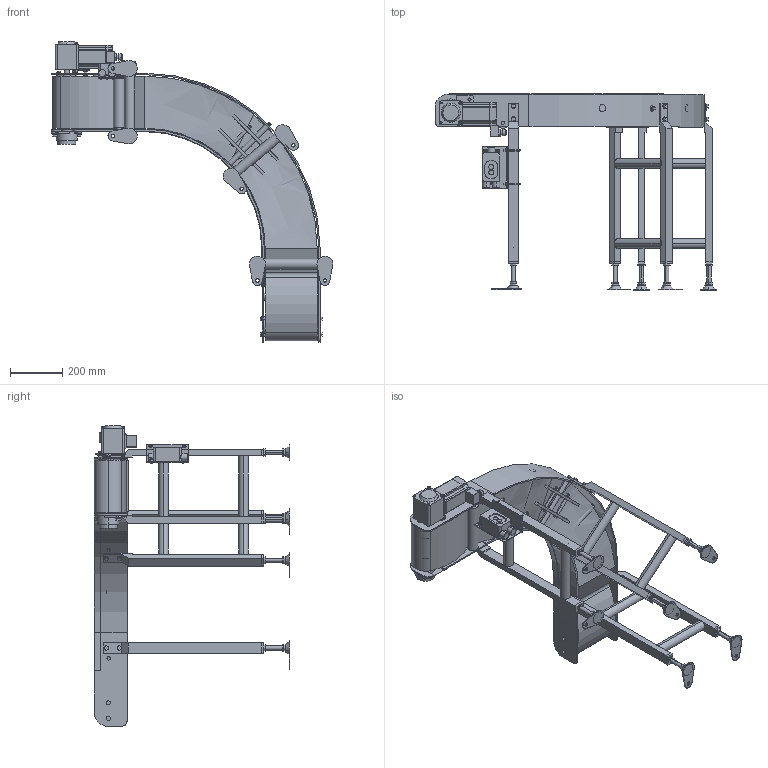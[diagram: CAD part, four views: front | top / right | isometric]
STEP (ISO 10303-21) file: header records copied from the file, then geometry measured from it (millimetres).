
FILE_DESCRIPTION (( 'STEP AP214' ), '1' );
FILE_NAME ('FPC1-309-200-90°-R-K-20.STEP', '2024-04-15T09:04:02', ( '' ), ( '' ), 'SwSTEP 2.0', 'SolidWorks 2017', '' );
FILE_SCHEMA (( 'AUTOMOTIVE_DESIGN' ));
Length unit declared in the file: millimetre
Products named in the file (1): FPC1-309-200-90°-R-K-20
Bounding box: 1080.99 x 751.5 x 1153 mm (x, y, z)
Volume: 41211306.8 mm3; surface area: 3149941.5 mm2
Topology: 51 solids, 51 shells, 1638 faces, 3860 edges, 2499 vertices
Faces by surface type: plane 1023, cylinder 518, cone 68, torus 21, sphere 4, bspline 4
Entity records: 52665 total; most frequent: CARTESIAN_POINT 13304, DIRECTION 8260, ORIENTED_EDGE 7712, EDGE_CURVE 3856, AXIS2_PLACEMENT_3D 2872, LINE 2516, VECTOR 2516, VERTEX_POINT 2499
